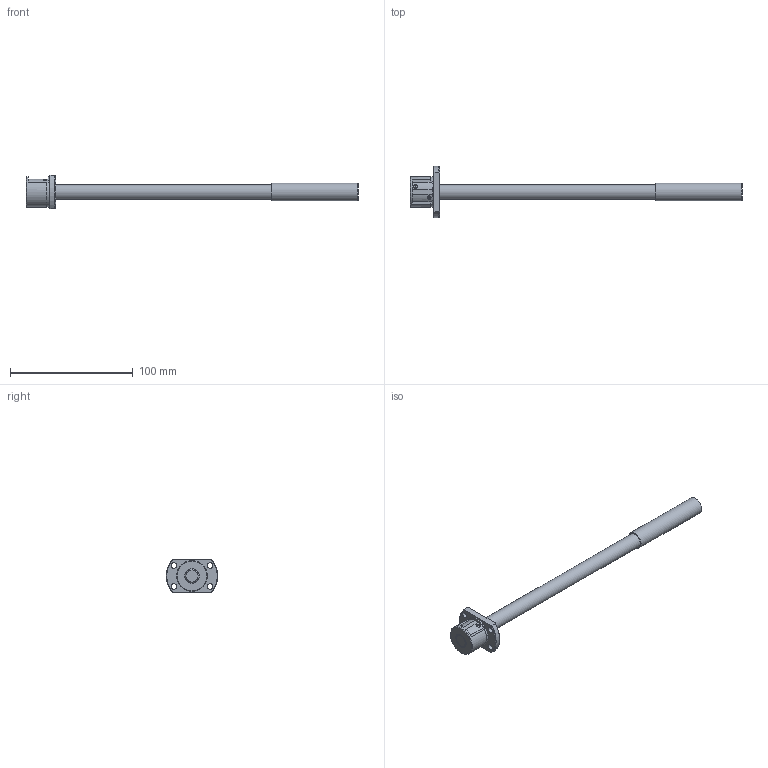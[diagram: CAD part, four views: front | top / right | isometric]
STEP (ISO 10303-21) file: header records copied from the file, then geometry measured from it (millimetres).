
FILE_DESCRIPTION( ( 'STEP AP203' ), '1' );
FILE_NAME( 'e:/temp/worker_94/temp/exporttempdir_5292_1570_QgyNQ/format_0/SRT1202-196R270C7A0X(0None).stp', '2021-10-19T05:53:27', ( 'License CC BY-ND 4.0' ), ( 'CADENAS' ), ' ', 'PARTsolutions', ' ' );
FILE_SCHEMA( ( 'CONFIG_CONTROL_DESIGN' ) );
Length unit declared in the file: millimetre
Products named in the file (3): SRT1202-196R270C7A0X(0None); _SRT1202-196R270ACt7NoneShaft; _SRT1202Nut
Assembly tree (2 placements, depth 2):
  SRT1202-196R270C7A0X(0None)
    _SRT1202-196R270ACt7NoneShaft
    _SRT1202Nut
Bounding box: 270 x 42 x 27 mm (x, y, z)
Volume: 44568.6 mm3; surface area: 15998.3 mm2
Topology: 2 solids, 2 shells, 58 faces, 139 edges, 89 vertices
Faces by surface type: plane 36, cylinder 13, cone 9
Full cylindrical faces by diameter (mm): 4.5 x4, 12 x2, 14.2 x1, 24.5 x1, 25 x1
Entity records: 1770 total; most frequent: CARTESIAN_POINT 381, DIRECTION 276, ORIENTED_EDGE 234, EDGE_CURVE 117, AXIS2_PLACEMENT_3D 108, EDGE_LOOP 86, VERTEX_POINT 81, FACE_OUTER_BOUND 67
